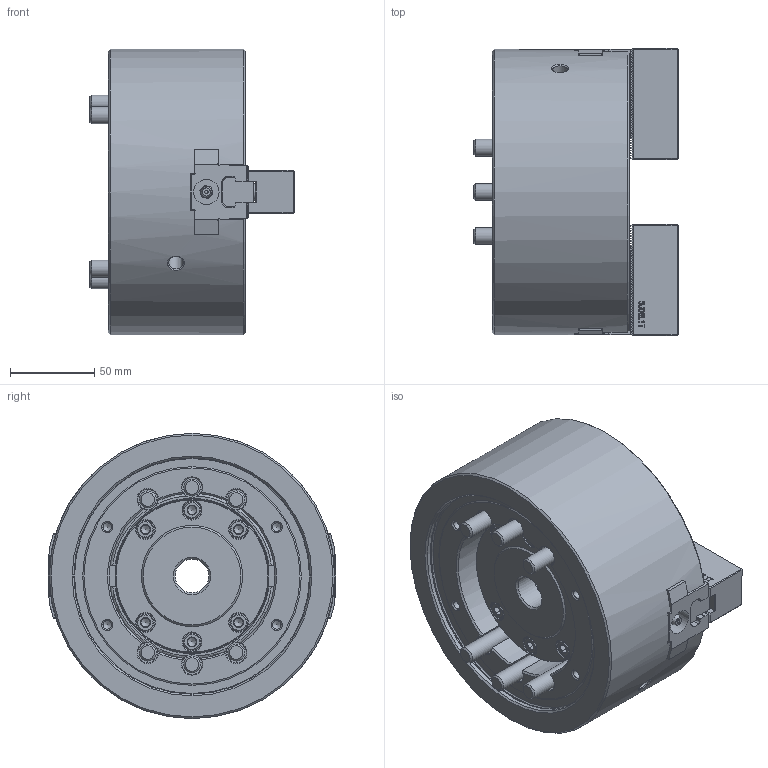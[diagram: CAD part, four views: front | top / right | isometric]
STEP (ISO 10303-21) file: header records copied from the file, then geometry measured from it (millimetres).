
FILE_DESCRIPTION (( 'STEP AP214' ), '1' );
FILE_NAME ('DT1_BT206_OUTSIDE_VIEW_UC.STEP', '2024-05-09T00:11:11', ( '' ), ( '' ), 'SwSTEP 2.0', 'SolidWorks 2022', '' );
FILE_SCHEMA (( 'AUTOMOTIVE_DESIGN' ));
Length unit declared in the file: millimetre
Products named in the file (9): DT1_BT206_BASE^DT1-BT206_ﾃﾞﾌｫﾙﾄ; DT1_BT206_DRAWNUT^DT1-BT206_ﾃﾞﾌｫﾙﾄ; DT1_BT206_SOFTJAW^DT1-BT206_ﾃﾞﾌｫﾙﾄ; DT1_BT206_M5x10^DT1-BT206_ﾃﾞﾌｫﾙﾄ; DT1_BT206_COVER^DT1-BT206_ﾃﾞﾌｫﾙﾄ; DT1_BT206_OUTSIDE_VIEW_UC; DT1_BT206_M10x25^DT1-BT206_ﾃﾞﾌｫﾙﾄ; DT1_BT206_TNUT^DT1-BT206_ﾃﾞﾌｫﾙﾄ; DT1_BT206_M10x80^DT1-BT206_ﾃﾞﾌｫﾙﾄ
Assembly tree (21 placements, depth 2):
  DT1_BT206_OUTSIDE_VIEW_UC
    DT1_BT206_SOFTJAW^DT1-BT206_ﾃﾞﾌｫﾙﾄ  x2
    DT1_BT206_TNUT^DT1-BT206_ﾃﾞﾌｫﾙﾄ  x2
    DT1_BT206_DRAWNUT^DT1-BT206_ﾃﾞﾌｫﾙﾄ
    DT1_BT206_COVER^DT1-BT206_ﾃﾞﾌｫﾙﾄ
    DT1_BT206_BASE^DT1-BT206_ﾃﾞﾌｫﾙﾄ
    DT1_BT206_M5x10^DT1-BT206_ﾃﾞﾌｫﾙﾄ  x4
    DT1_BT206_M10x25^DT1-BT206_ﾃﾞﾌｫﾙﾄ  x4
    DT1_BT206_M10x80^DT1-BT206_ﾃﾞﾌｫﾙﾄ  x6
Bounding box: 121 x 170.51 x 169 mm (x, y, z)
Volume: 1611008.6 mm3; surface area: 234762.7 mm2
Topology: 21 solids, 29 shells, 2724 faces, 7508 edges, 4936 vertices
Faces by surface type: plane 1867, cylinder 328, bspline 271, cone 231, torus 25, sphere 2
Full cylindrical faces by diameter (mm): 2 x2, 4.2 x4, 5 x8, 5.5 x4, 8.5 x2, 8.6 x4, 9.5 x4, 10 x14, 10.22 x6, 11 x10, 12 x6, 15 x2, 16.27 x10, 17 x10, 20 x1, 45 x1, 48 x2, 55.5 x1, 57.8 x2, 60 x2, 65.5 x2, 90.7 x1, 91 x1, 140 x1, 140.8 x1, 169 x1
Entity records: 74859 total; most frequent: CARTESIAN_POINT 23721, ORIENTED_EDGE 11336, DIRECTION 8934, EDGE_CURVE 5668, VECTOR 3992, LINE 3992, VERTEX_POINT 3816, AXIS2_PLACEMENT_3D 2471
